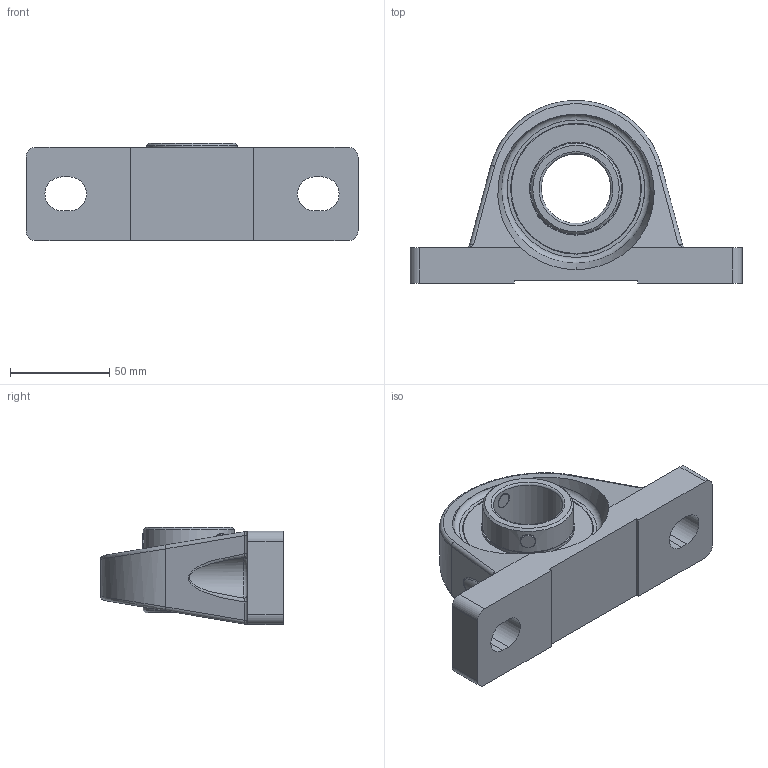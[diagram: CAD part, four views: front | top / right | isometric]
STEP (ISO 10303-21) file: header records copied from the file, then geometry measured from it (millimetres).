
FILE_DESCRIPTION(/* description */ (''),/* implementation_level */ '2;1');
FILE_NAME(/* name */ 'C:\MOJE SUBORY\03_Doplnenie 3D modelov\nove\sgc_hotove\SGC207.stp',/* time_stamp */ '2023-06-29T09:38:16+02:00',/* author */ ('OUPIONTEKM'),/* organization */ (''),/* preprocessor_version */ 'ST-DEVELOPER v19',/* originating_system */ 'Autodesk Inventor 2023',/* authorisation */ '');
FILE_SCHEMA (('AUTOMOTIVE_DESIGN { 1 0 10303 214 3 1 1 }'));
Length unit declared in the file: millimetre
Products named in the file (10): SGC203; sg205; UC207; UC207-02; UC207-ball; UC207-01; UC207-cage; UC207-seal; M8X6; UC207-shield
Assembly tree (20 placements, depth 3):
  SGC203
    sg205
    UC207
      UC207-02
      UC207-ball  x8
      UC207-01
      UC207-cage  x2
      UC207-seal  x2
      M8X6  x2
      UC207-shield  x2
Bounding box: 167 x 91.95 x 48.9 mm (x, y, z)
Volume: 244206.4 mm3; surface area: 84138.6 mm2
Topology: 19 solids, 19 shells, 201 faces, 612 edges, 400 vertices
Faces by surface type: plane 79, cylinder 49, sphere 43, bspline 12, cone 10, torus 8
Full cylindrical faces by diameter (mm): 1.8 x2, 8 x4, 35 x1, 45.722 x6, 46.722 x2, 50.166 x2, 56.834 x2, 61.278 x2, 65.178 x2, 65.778 x4, 73.4 x1
Entity records: 6530 total; most frequent: CARTESIAN_POINT 2270, DIRECTION 896, ORIENTED_EDGE 798, EDGE_CURVE 399, AXIS2_PLACEMENT_3D 398, VERTEX_POINT 272, CIRCLE 215, EDGE_LOOP 167
